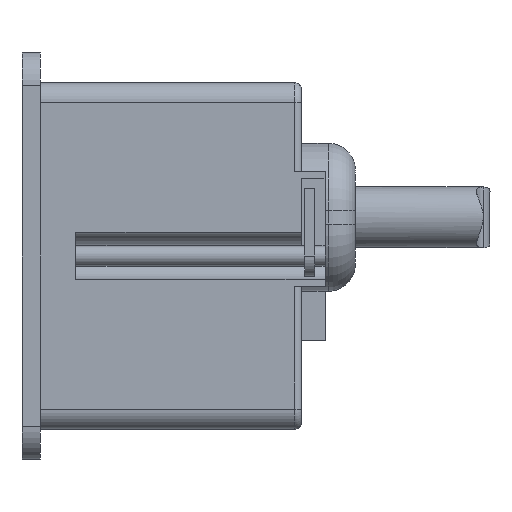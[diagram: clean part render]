
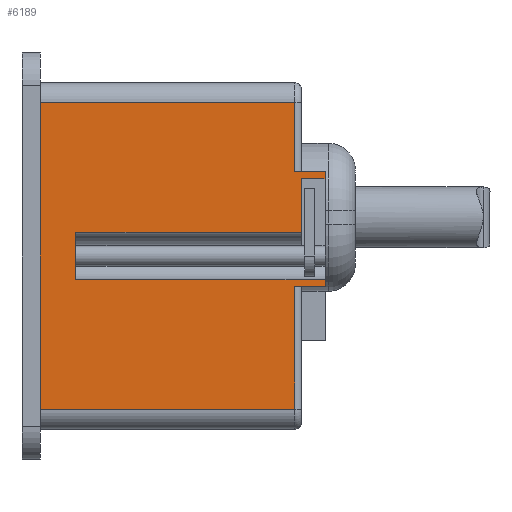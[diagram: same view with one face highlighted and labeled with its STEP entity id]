
A CAD part, left-side view. The second image highlights one B-rep face of the part: STEP entity #6189.
In plain terms, the highlighted planar face has unit normal (-1, 0, 0).
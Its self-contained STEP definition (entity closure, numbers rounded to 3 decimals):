
#39 = CARTESIAN_POINT ( 'NONE',  ( -105.85, -3.5, 11.5 ) ) ;
#45 = DIRECTION ( 'NONE',  ( 0., 0., 1. ) ) ;
#64 = DIRECTION ( 'NONE',  ( 0., 0., 1. ) ) ;
#70 = VERTEX_POINT ( 'NONE', #6055 ) ;
#81 = DIRECTION ( 'NONE',  ( 0., 1., 0. ) ) ;
#105 = VECTOR ( 'NONE', #2437, 1000. ) ;
#124 = CARTESIAN_POINT ( 'NONE',  ( -105.85, 1., 12.5 ) ) ;
#136 = CARTESIAN_POINT ( 'NONE',  ( -105.85, 33.5, 3.5 ) ) ;
#159 = VERTEX_POINT ( 'NONE', #4598 ) ;
#228 = CARTESIAN_POINT ( 'NONE',  ( -105.85, -3.5, 11.5 ) ) ;
#380 = CARTESIAN_POINT ( 'NONE',  ( -105.85, 38.8, -22.75 ) ) ;
#381 = EDGE_CURVE ( 'NONE', #3910, #2997, #2780, .T. ) ;
#430 = DIRECTION ( 'NONE',  ( 0., 0., -1. ) ) ;
#562 = EDGE_CURVE ( 'NONE', #5484, #3180, #3508, .T. ) ;
#692 = CARTESIAN_POINT ( 'NONE',  ( -105.85, 0., 3.5 ) ) ;
#698 = CARTESIAN_POINT ( 'NONE',  ( -105.85, 41.5, -22.75 ) ) ;
#715 = CARTESIAN_POINT ( 'NONE',  ( -105.85, 33.5, -3.5 ) ) ;
#987 = PLANE ( 'NONE',  #1199 ) ;
#1007 = CARTESIAN_POINT ( 'NONE',  ( -105.85, 38.8, -22.75 ) ) ;
#1029 = CARTESIAN_POINT ( 'NONE',  ( -105.85, 51.399, -3.5 ) ) ;
#1186 = DIRECTION ( 'NONE',  ( 0., 1., 0. ) ) ;
#1199 = AXIS2_PLACEMENT_3D ( 'NONE', #5774, #5180, #430 ) ;
#1214 = DIRECTION ( 'NONE',  ( 0., 1., 0. ) ) ;
#1241 = EDGE_CURVE ( 'NONE', #70, #4552, #5971, .T. ) ;
#1302 = DIRECTION ( 'NONE',  ( 0., 0., -1. ) ) ;
#1354 = ORIENTED_EDGE ( 'NONE', *, *, #5857, .T. ) ;
#1358 = CARTESIAN_POINT ( 'NONE',  ( -105.85, 1., 22.75 ) ) ;
#1369 = ORIENTED_EDGE ( 'NONE', *, *, #1647, .T. ) ;
#1506 = FACE_OUTER_BOUND ( 'NONE', #1995, .T. ) ;
#1510 = LINE ( 'NONE', #1029, #2085 ) ;
#1615 = LINE ( 'NONE', #3728, #6515 ) ;
#1647 = EDGE_CURVE ( 'NONE', #2997, #5787, #2908, .T. ) ;
#1673 = CARTESIAN_POINT ( 'NONE',  ( -105.85, -3.5, -3.5 ) ) ;
#1830 = LINE ( 'NONE', #3886, #5775 ) ;
#1882 = VERTEX_POINT ( 'NONE', #2760 ) ;
#1920 = ORIENTED_EDGE ( 'NONE', *, *, #5793, .F. ) ;
#1995 = EDGE_LOOP ( 'NONE', ( #3658, #4341, #4510, #6240, #4088, #1369, #6745, #2080, #1920, #4370, #2940, #1354, #2167, #4069 ) ) ;
#2026 = DIRECTION ( 'NONE',  ( 0., 1., 0. ) ) ;
#2036 = EDGE_CURVE ( 'NONE', #2669, #2990, #3490, .T. ) ;
#2060 = LINE ( 'NONE', #2579, #4114 ) ;
#2080 = ORIENTED_EDGE ( 'NONE', *, *, #2988, .F. ) ;
#2085 = VECTOR ( 'NONE', #5188, 1000. ) ;
#2167 = ORIENTED_EDGE ( 'NONE', *, *, #6360, .F. ) ;
#2212 = VECTOR ( 'NONE', #6428, 1000. ) ;
#2229 = CARTESIAN_POINT ( 'NONE',  ( -105.85, -3.5, -4.5 ) ) ;
#2392 = CARTESIAN_POINT ( 'NONE',  ( -105.85, 1., -4.5 ) ) ;
#2437 = DIRECTION ( 'NONE',  ( 0., 0., 1. ) ) ;
#2508 = EDGE_CURVE ( 'NONE', #2669, #5484, #2060, .T. ) ;
#2579 = CARTESIAN_POINT ( 'NONE',  ( -105.85, -3.5, 12.5 ) ) ;
#2617 = CARTESIAN_POINT ( 'NONE',  ( -105.85, 1., -4.5 ) ) ;
#2669 = VERTEX_POINT ( 'NONE', #2943 ) ;
#2760 = CARTESIAN_POINT ( 'NONE',  ( -105.85, 0., 11.5 ) ) ;
#2780 = LINE ( 'NONE', #698, #5871 ) ;
#2834 = DIRECTION ( 'NONE',  ( 0., 0., -1. ) ) ;
#2908 = LINE ( 'NONE', #2392, #6196 ) ;
#2940 = ORIENTED_EDGE ( 'NONE', *, *, #1241, .T. ) ;
#2943 = CARTESIAN_POINT ( 'NONE',  ( -105.85, -3.5, 12.5 ) ) ;
#2988 = EDGE_CURVE ( 'NONE', #3641, #6663, #1830, .T. ) ;
#2990 = VERTEX_POINT ( 'NONE', #228 ) ;
#2997 = VERTEX_POINT ( 'NONE', #5997 ) ;
#3180 = VERTEX_POINT ( 'NONE', #3242 ) ;
#3242 = CARTESIAN_POINT ( 'NONE',  ( -105.85, 1., 22.75 ) ) ;
#3318 = CARTESIAN_POINT ( 'NONE',  ( -105.85, 41.5, 22.75 ) ) ;
#3387 = CARTESIAN_POINT ( 'NONE',  ( -105.85, -3.5, 0. ) ) ;
#3490 = LINE ( 'NONE', #3387, #5420 ) ;
#3508 = LINE ( 'NONE', #1358, #105 ) ;
#3584 = EDGE_CURVE ( 'NONE', #4652, #70, #4760, .T. ) ;
#3641 = VERTEX_POINT ( 'NONE', #1673 ) ;
#3658 = ORIENTED_EDGE ( 'NONE', *, *, #2508, .T. ) ;
#3728 = CARTESIAN_POINT ( 'NONE',  ( -105.85, 0., 25.75 ) ) ;
#3874 = EDGE_CURVE ( 'NONE', #3910, #159, #6274, .T. ) ;
#3886 = CARTESIAN_POINT ( 'NONE',  ( -105.85, -3.5, 0. ) ) ;
#3910 = VERTEX_POINT ( 'NONE', #380 ) ;
#4069 = ORIENTED_EDGE ( 'NONE', *, *, #2036, .F. ) ;
#4088 = ORIENTED_EDGE ( 'NONE', *, *, #381, .T. ) ;
#4114 = VECTOR ( 'NONE', #2026, 1000. ) ;
#4341 = ORIENTED_EDGE ( 'NONE', *, *, #562, .T. ) ;
#4370 = ORIENTED_EDGE ( 'NONE', *, *, #3584, .T. ) ;
#4398 = DIRECTION ( 'NONE',  ( 0., 0., 1. ) ) ;
#4413 = VECTOR ( 'NONE', #1186, 1000. ) ;
#4510 = ORIENTED_EDGE ( 'NONE', *, *, #5898, .T. ) ;
#4552 = VERTEX_POINT ( 'NONE', #692 ) ;
#4598 = CARTESIAN_POINT ( 'NONE',  ( -105.85, 38.8, 22.75 ) ) ;
#4652 = VERTEX_POINT ( 'NONE', #715 ) ;
#4760 = LINE ( 'NONE', #136, #5332 ) ;
#4915 = LINE ( 'NONE', #3318, #5513 ) ;
#5002 = VECTOR ( 'NONE', #5094, 1000. ) ;
#5094 = DIRECTION ( 'NONE',  ( 0., 0., 1. ) ) ;
#5180 = DIRECTION ( 'NONE',  ( 1., 0., 0. ) ) ;
#5188 = DIRECTION ( 'NONE',  ( 0., -1., 0. ) ) ;
#5332 = VECTOR ( 'NONE', #64, 1000. ) ;
#5376 = DIRECTION ( 'NONE',  ( 0., -1., 0. ) ) ;
#5420 = VECTOR ( 'NONE', #1302, 1000. ) ;
#5484 = VERTEX_POINT ( 'NONE', #124 ) ;
#5513 = VECTOR ( 'NONE', #81, 1000. ) ;
#5774 = CARTESIAN_POINT ( 'NONE',  ( -105.85, 41.5, 25.75 ) ) ;
#5775 = VECTOR ( 'NONE', #2834, 1000. ) ;
#5787 = VERTEX_POINT ( 'NONE', #2617 ) ;
#5793 = EDGE_CURVE ( 'NONE', #4652, #3641, #1510, .T. ) ;
#5832 = LINE ( 'NONE', #2229, #6054 ) ;
#5857 = EDGE_CURVE ( 'NONE', #4552, #1882, #1615, .T. ) ;
#5871 = VECTOR ( 'NONE', #5376, 1000. ) ;
#5898 = EDGE_CURVE ( 'NONE', #3180, #159, #4915, .T. ) ;
#5971 = LINE ( 'NONE', #6466, #2212 ) ;
#5997 = CARTESIAN_POINT ( 'NONE',  ( -105.85, 1., -22.75 ) ) ;
#6054 = VECTOR ( 'NONE', #1214, 1000. ) ;
#6055 = CARTESIAN_POINT ( 'NONE',  ( -105.85, 33.5, 3.5 ) ) ;
#6189 = ADVANCED_FACE ( 'NONE', ( #1506 ), #987, .F. ) ;
#6196 = VECTOR ( 'NONE', #4398, 1000. ) ;
#6240 = ORIENTED_EDGE ( 'NONE', *, *, #3874, .F. ) ;
#6274 = LINE ( 'NONE', #1007, #5002 ) ;
#6320 = CARTESIAN_POINT ( 'NONE',  ( -105.85, -3.5, -4.5 ) ) ;
#6360 = EDGE_CURVE ( 'NONE', #2990, #1882, #6498, .T. ) ;
#6428 = DIRECTION ( 'NONE',  ( 0., -1., 0. ) ) ;
#6466 = CARTESIAN_POINT ( 'NONE',  ( -105.85, 51.399, 3.5 ) ) ;
#6498 = LINE ( 'NONE', #39, #4413 ) ;
#6515 = VECTOR ( 'NONE', #45, 1000. ) ;
#6663 = VERTEX_POINT ( 'NONE', #6320 ) ;
#6745 = ORIENTED_EDGE ( 'NONE', *, *, #6782, .F. ) ;
#6782 = EDGE_CURVE ( 'NONE', #6663, #5787, #5832, .T. ) ;
